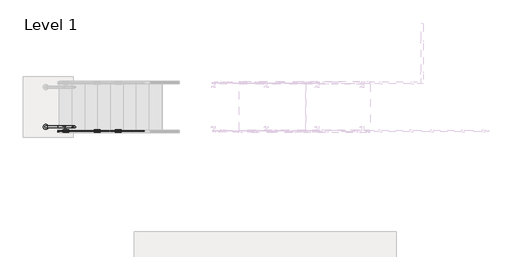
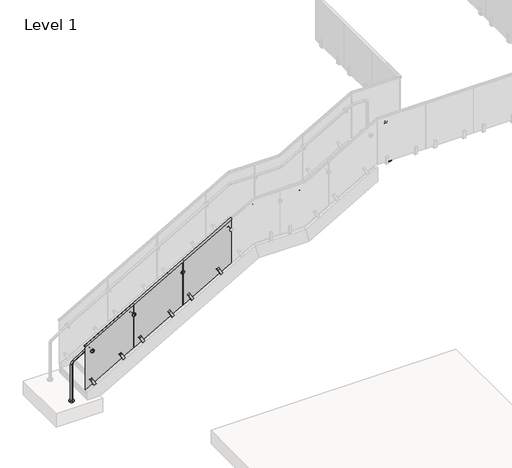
# One storey, part 2 of 17: 1 railing.
"""IFC4 building model written with IfcOpenShell, lengths in millimetres."""

from ifc_helpers import new_model, si_unit, point, frame, frame_2d, origin, origin_with_axes, place, context, project, spatial, polyline, circle_curve, ellipse_curve, trimmed, segment, composite_curve, outline, extrude, element, save
from ifc_brep_helpers import plane_surface, cylinder_surface, revolved_surface, advanced_brep

model = new_model("IFC4")

# Units and contexts
model_context = context("Model", 3, world=origin())
ifc_project = project(units=[si_unit("LENGTHUNIT", "METRE", prefix="MILLI")], contexts=[model_context])

# Site, building, storey
site = spatial("IfcSite", under=ifc_project)
building = spatial("IfcBuilding", under=site)
storey = spatial("IfcBuildingStorey", under=building, Name="Level 1", Elevation=0.0)

# Railing
placement = place(None, origin())
element("IfcRailing", 1, ObjectType="VIVA-VISIO-Glass-Steel Surface Mount-Stair_Lower", at=placement, inside=storey, context=model_context, shape_type="SolidModel", body=[
    extrude(outline(composite_curve([segment(trimmed(circle_curve(frame_2d((30754.4362561, -21962.3617549)), 50.8), [point((30754.4362561, -22013.1617549))], [point((30754.4362561, -21911.5617549))], False, "CARTESIAN"), True, "CONTINUOUS"), segment(trimmed(circle_curve(frame_2d((30754.4362561, -21962.3617549)), 50.8), [point((30754.4362561, -21911.5617549))], [point((30754.4362561, -22013.1617549))], False, "CARTESIAN"), True, "CONTINUOUS")], self_intersect=False)), frame((0.0, 0.0, 3048.0), z_axis=(0.0, 0.0, 1.0), x_axis=(1.0, 0.0, 0.0)), (0.0, 0.0, 1.0), 19.05),
    extrude(outline(composite_curve([segment(trimmed(circle_curve(frame_2d((24036.1362561, -21962.3617549)), 50.8), [point((24036.1362561, -21911.5617549))], [point((24036.1362561, -22013.1617549))], False, "CARTESIAN"), True, "CONTINUOUS"), segment(trimmed(circle_curve(frame_2d((24036.1362561, -21962.3617549)), 50.8), [point((24036.1362561, -22013.1617549))], [point((24036.1362561, -21911.5617549))], False, "CARTESIAN"), True, "CONTINUOUS")], self_intersect=False)), origin_with_axes(), (0.0, 0.0, 1.0), 19.05),
    advanced_brep(
    [(24036.1362561, -21981.4117549, 19.05), (24036.1362561, -21943.3117549, 19.05), (24036.1362561, -21981.4117549, 815.8777111), (24036.1362561, -21943.3117549, 815.8777111), (24072.8957549, -21943.3117549, 884.5634629), (24072.8957549, -21981.4117549, 884.5634629), (24278.7417076, -21981.4117549, 1021.794098), (24278.7417076, -21943.3117549, 1021.794098), (24283.5759394, -21943.3117549, 1024.7818176), (24283.5759394, -21981.4117549, 1024.7818176), (27379.3377028, -21981.4117549, 2793.7885396), (27379.3377028, -21943.3117549, 2793.7885396), (27813.1113335, -21981.4117549, 3041.6591857), (27813.1113335, -21943.3117549, 3041.6591857), (27854.0676029, -21943.3117549, 3052.5357143), (27854.0676029, -21981.4117549, 3052.5357143), (28866.9049093, -21981.4117549, 3052.5357143), (28866.9049093, -21943.3117549, 3052.5357143), (28926.7640722, -21943.3117549, 3068.4321792), (28926.7640722, -21981.4117549, 3068.4321792), (30403.9113335, -21981.4117549, 3912.5163285), (30403.9113335, -21943.3117549, 3912.5163285), (30444.8676029, -21943.3117549, 3923.3928571), (30444.8676029, -21981.4117549, 3923.3928571), (30671.8862561, -21981.4117549, 3923.3928571), (30671.8862561, -21943.3117549, 3923.3928571), (30754.4362561, -21943.3117549, 3840.8428571), (30754.4362561, -21981.4117549, 3840.8428571), (30754.4362561, -21981.4117549, 3067.05), (30754.4362561, -21943.3117549, 3067.05)],
    [
        (0, 1, circle_curve(frame((24036.1362561, -21962.3617549, 19.05), z_axis=(0.0, 0.0, -1.0), x_axis=(0.0, 1.0, 0.0)), 19.05)),
        (1, 0, circle_curve(frame((24036.1362561, -21962.3617549, 19.05), z_axis=(0.0, 0.0, -1.0), x_axis=(0.0, 1.0, 0.0)), 19.05)),
        (0, 2),
        (2, 3, circle_curve(frame((24036.1362561, -21962.3617549, 815.8777111), z_axis=(0.0, 0.0, -1.0), x_axis=(0.0, 1.0, 0.0)), 19.05)),
        (3, 1),
        (3, 2, circle_curve(frame((24036.1362561, -21962.3617549, 815.8777111), z_axis=(0.0, 0.0, -1.0), x_axis=(0.0, 1.0, 0.0)), 19.05)),
        (4, 3, circle_curve(frame((24118.6862561, -21943.3117549, 815.8777111), z_axis=(0.0, -1.0, 0.0), x_axis=(-0.9999999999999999, 0.0, 0.0)), 82.55)),
        (2, 5, circle_curve(frame((24118.6862561, -21981.4117549, 815.8777111), z_axis=(0.0, 1.0, 0.0), x_axis=(-0.9999999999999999, 0.0, 0.0)), 82.55)),
        (5, 4, circle_curve(frame((24072.8957549, -21962.3617549, 884.5634629), z_axis=(-0.8320502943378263, 0.0, -0.5547001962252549), x_axis=(0.0, 0.9999999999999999, 0.0)), 19.05)),
        (4, 5, circle_curve(frame((24072.8957549, -21962.3617549, 884.5634629), z_axis=(-0.8320502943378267, 0.0, -0.5547001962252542), x_axis=(0.0, 0.9999999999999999, 0.0)), 19.05)),
        (5, 6),
        (6, 7, circle_curve(frame((24278.7417076, -21962.3617549, 1021.794098), z_axis=(-0.8320502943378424, 0.0, -0.554700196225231), x_axis=(0.0, 1.0, 0.0)), 19.05)),
        (7, 4),
        (7, 6, circle_curve(frame((24278.7417076, -21962.3617549, 1021.794098), z_axis=(-0.8320502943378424, 0.0, -0.554700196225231), x_axis=(0.0, 1.0, 0.0)), 19.05)),
        (8, 9, circle_curve(frame((24283.5759394, -21962.3617549, 1024.7818176), z_axis=(0.8682431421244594, 0.0, 0.4961389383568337), x_axis=(0.0, 1.0, 0.0)), 19.05)),
        (9, 10),
        (10, 11, circle_curve(frame((27379.3377028, -21962.3617549, 2793.7885396), z_axis=(-0.8682431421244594, 0.0, -0.4961389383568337), x_axis=(0.0, 1.0, 0.0)), 19.05)),
        (11, 8),
        (9, 8, circle_curve(frame((24283.5759394, -21962.3617549, 1024.7818176), z_axis=(0.8682431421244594, 0.0, 0.4961389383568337), x_axis=(0.0, 1.0, 0.0)), 19.05)),
        (11, 10, circle_curve(frame((27379.3377028, -21962.3617549, 2793.7885396), z_axis=(-0.8682431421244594, 0.0, -0.4961389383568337), x_axis=(0.0, 1.0, 0.0)), 19.05)),
        (8, 7, circle_curve(frame((24324.5322088, -21943.3117549, 953.1083462), z_axis=(0.0, -1.0, 0.0), x_axis=(-0.5547001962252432, 0.0, 0.8320502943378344)), 82.55)),
        (6, 9, circle_curve(frame((24324.5322088, -21981.4117549, 953.1083462), z_axis=(0.0, 1.0, 0.0), x_axis=(-0.5547001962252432, 0.0, 0.8320502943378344)), 82.55)),
        (10, 12),
        (12, 13, circle_curve(frame((27813.1113335, -21962.3617549, 3041.6591857), z_axis=(-0.8682431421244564, 0.0, -0.4961389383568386), x_axis=(0.0, 1.0, 0.0)), 19.05)),
        (13, 11),
        (13, 12, circle_curve(frame((27813.1113335, -21962.3617549, 3041.6591857), z_axis=(-0.8682431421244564, 0.0, -0.4961389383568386), x_axis=(0.0, 1.0, 0.0)), 19.05)),
        (14, 13, circle_curve(frame((27854.0676029, -21943.3117549, 2969.9857143), z_axis=(0.0, -1.0, 0.0), x_axis=(-0.49613893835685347, 0.0, 0.8682431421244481)), 82.55)),
        (12, 15, circle_curve(frame((27854.0676029, -21981.4117549, 2969.9857143), z_axis=(0.0, 1.0, 0.0), x_axis=(-0.49613893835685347, 0.0, 0.8682431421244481)), 82.55)),
        (15, 14, circle_curve(frame((27854.0676029, -21962.3617549, 3052.5357143), z_axis=(-1.0, 0.0, 0.0), x_axis=(0.0, 1.0, 0.0)), 19.05)),
        (14, 15, circle_curve(frame((27854.0676029, -21962.3617549, 3052.5357143), z_axis=(-1.0, 0.0, 0.0), x_axis=(0.0, 1.0, 0.0)), 19.05)),
        (15, 16),
        (16, 17, circle_curve(frame((28866.9049093, -21962.3617549, 3052.5357143), z_axis=(-1.0, 0.0, 0.0), x_axis=(0.0, 1.0, 0.0)), 19.05)),
        (17, 14),
        (17, 16, circle_curve(frame((28866.9049093, -21962.3617549, 3052.5357143), z_axis=(-1.0, 0.0, 0.0), x_axis=(0.0, 1.0, 0.0)), 19.05)),
        (18, 17, circle_curve(frame((28866.9049093, -21943.3117549, 3173.1857143), z_axis=(0.0, 1.0, 0.0), x_axis=(0.0, 0.0, -0.9999999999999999)), 120.65)),
        (16, 19, circle_curve(frame((28866.9049093, -21981.4117549, 3173.1857143), z_axis=(0.0, -1.0, 0.0), x_axis=(0.0, 0.0, -0.9999999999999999)), 120.65)),
        (19, 18, circle_curve(frame((28926.7640722, -21962.3617549, 3068.4321792), z_axis=(-0.8682431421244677, 0.0, -0.4961389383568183), x_axis=(0.0, 0.9999999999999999, 0.0)), 19.05)),
        (18, 19, circle_curve(frame((28926.7640722, -21962.3617549, 3068.4321792), z_axis=(-0.8682431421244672, 0.0, -0.49613893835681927), x_axis=(0.0, 0.9999999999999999, 0.0)), 19.05)),
        (19, 20),
        (20, 21, circle_curve(frame((30403.9113335, -21962.3617549, 3912.5163285), z_axis=(-0.8682431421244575, 0.0, -0.49613893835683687), x_axis=(0.0, 1.0, 0.0)), 19.05)),
        (21, 18),
        (21, 20, circle_curve(frame((30403.9113335, -21962.3617549, 3912.5163285), z_axis=(-0.8682431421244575, 0.0, -0.49613893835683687), x_axis=(0.0, 1.0, 0.0)), 19.05)),
        (22, 21, circle_curve(frame((30444.8676029, -21943.3117549, 3840.8428571), z_axis=(0.0, -1.0, 0.0), x_axis=(-0.4961389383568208, 0.0, 0.8682431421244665)), 82.55)),
        (20, 23, circle_curve(frame((30444.8676029, -21981.4117549, 3840.8428571), z_axis=(0.0, 1.0, 0.0), x_axis=(-0.4961389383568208, 0.0, 0.8682431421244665)), 82.55)),
        (23, 22, circle_curve(frame((30444.8676029, -21962.3617549, 3923.3928571), z_axis=(-0.9999999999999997, 0.0, 0.0), x_axis=(0.0, 0.9999999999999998, 0.0)), 19.05)),
        (22, 23, circle_curve(frame((30444.8676029, -21962.3617549, 3923.3928571), z_axis=(-0.9999999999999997, 0.0, 0.0), x_axis=(0.0, 0.9999999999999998, 0.0)), 19.05)),
        (23, 24),
        (24, 25, circle_curve(frame((30671.8862561, -21962.3617549, 3923.3928571), z_axis=(-1.0, 0.0, 0.0), x_axis=(0.0, 1.0, 0.0)), 19.05)),
        (25, 22),
        (25, 24, circle_curve(frame((30671.8862561, -21962.3617549, 3923.3928571), z_axis=(-1.0, 0.0, 0.0), x_axis=(0.0, 1.0, 0.0)), 19.05)),
        (26, 25, circle_curve(frame((30671.8862561, -21943.3117549, 3840.8428571), z_axis=(0.0, -1.0, 0.0), x_axis=(0.0, 0.0, 1.0)), 82.55)),
        (24, 27, circle_curve(frame((30671.8862561, -21981.4117549, 3840.8428571), z_axis=(0.0, 1.0, 0.0), x_axis=(0.0, 0.0, 1.0)), 82.55)),
        (27, 26, circle_curve(frame((30754.4362561, -21962.3617549, 3840.8428571), z_axis=(0.0, 0.0, 1.0), x_axis=(0.0, 1.0, 0.0)), 19.05)),
        (26, 27, circle_curve(frame((30754.4362561, -21962.3617549, 3840.8428571), z_axis=(0.0, 0.0, 1.0), x_axis=(0.0, 1.0, 0.0)), 19.05)),
        (28, 29, circle_curve(frame((30754.4362561, -21962.3617549, 3067.05), z_axis=(0.0, 0.0, -1.0), x_axis=(0.0, 1.0, 0.0)), 19.05)),
        (29, 28, circle_curve(frame((30754.4362561, -21962.3617549, 3067.05), z_axis=(0.0, 0.0, -1.0), x_axis=(0.0, 1.0, 0.0)), 19.05)),
        (27, 28),
        (29, 26),
    ],
    [
        plane_surface(frame((24017.0862561, -22000.4617549, 19.05), z_axis=(0.0, 0.0, -1.0), x_axis=(1.0, 0.0, 0.0))),
        cylinder_surface(frame((24036.1362561, -21962.3617549, 19.05), z_axis=(0.0, 0.0, -1.0), x_axis=(0.0, 1.0, 0.0)), 19.05),
        revolved_surface(trimmed(ellipse_curve(frame((24036.1362561, -21962.3617549, 815.8777111), z_axis=(0.0, 0.0, -0.9999999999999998), x_axis=(0.0, 0.9999999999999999, 0.0)), 19.05, 19.05), [point((24036.1362561, -21981.4117549, 815.8777111))], [point((24036.1362561, -21943.3117549, 815.8777111))], True, "CARTESIAN"), (24118.6862561, -21962.3617549, 815.8777111), (0.0, 0.9999999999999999, 0.0)),
        revolved_surface(trimmed(ellipse_curve(frame((24036.1362561, -21962.3617549, 815.8777111), z_axis=(0.0, 0.0, -0.9999999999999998), x_axis=(0.0, 0.9999999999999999, 0.0)), 19.05, 19.05), [point((24036.1362561, -21943.3117549, 815.8777111))], [point((24036.1362561, -21981.4117549, 815.8777111))], True, "CARTESIAN"), (24118.6862561, -21962.3617549, 815.8777111), (0.0, 0.9999999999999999, 0.0)),
        cylinder_surface(frame((24072.8957549, -21962.3617549, 884.5634629), z_axis=(-0.8320502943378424, 0.0, -0.554700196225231), x_axis=(0.0, 1.0, 0.0)), 19.05),
        cylinder_surface(frame((24283.5759394, -21962.3617549, 1024.7818176), z_axis=(-0.8682431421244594, 0.0, -0.4961389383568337), x_axis=(0.0, 1.0, 0.0)), 19.05),
        revolved_surface(trimmed(ellipse_curve(frame((24278.7417076, -21962.3617549, 1021.794098), z_axis=(-0.8320502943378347, 0.0, -0.5547001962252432), x_axis=(0.0, 1.0000000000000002, 0.0)), 19.05, 19.05), [point((24278.7417076, -21981.4117549, 1021.794098))], [point((24278.7417076, -21943.3117549, 1021.794098))], True, "CARTESIAN"), (24324.5322088, -21962.3617549, 953.1083462), (0.0, 1.0000000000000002, 0.0)),
        revolved_surface(trimmed(ellipse_curve(frame((24278.7417076, -21962.3617549, 1021.794098), z_axis=(-0.8320502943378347, 0.0, -0.5547001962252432), x_axis=(0.0, 1.0000000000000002, 0.0)), 19.05, 19.05), [point((24278.7417076, -21943.3117549, 1021.794098))], [point((24278.7417076, -21981.4117549, 1021.794098))], True, "CARTESIAN"), (24324.5322088, -21962.3617549, 953.1083462), (0.0, 1.0000000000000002, 0.0)),
        cylinder_surface(frame((27379.3377028, -21962.3617549, 2793.7885396), z_axis=(-0.8682431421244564, 0.0, -0.4961389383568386), x_axis=(0.0, 1.0, 0.0)), 19.05),
        revolved_surface(trimmed(ellipse_curve(frame((27813.1113335, -21962.3617549, 3041.6591857), z_axis=(-0.8682431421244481, 0.0, -0.49613893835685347), x_axis=(0.0, 1.0, 0.0)), 19.05, 19.05), [point((27813.1113335, -21981.4117549, 3041.6591857))], [point((27813.1113335, -21943.3117549, 3041.6591857))], True, "CARTESIAN"), (27854.0676029, -21962.3617549, 2969.9857143), (0.0, 1.0, 0.0)),
        revolved_surface(trimmed(ellipse_curve(frame((27813.1113335, -21962.3617549, 3041.6591857), z_axis=(-0.8682431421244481, 0.0, -0.49613893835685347), x_axis=(0.0, 1.0, 0.0)), 19.05, 19.05), [point((27813.1113335, -21943.3117549, 3041.6591857))], [point((27813.1113335, -21981.4117549, 3041.6591857))], True, "CARTESIAN"), (27854.0676029, -21962.3617549, 2969.9857143), (0.0, 1.0, 0.0)),
        cylinder_surface(frame((27854.0676029, -21962.3617549, 3052.5357143), z_axis=(-1.0, 0.0, 0.0), x_axis=(0.0, 1.0, 0.0)), 19.05),
        revolved_surface(trimmed(ellipse_curve(frame((28866.9049093, -21962.3617549, 3052.5357143), z_axis=(-0.9999999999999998, 0.0, 0.0), x_axis=(0.0, 0.9999999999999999, 0.0)), 19.05, 19.05), [point((28866.9049093, -21981.4117549, 3052.5357143))], [point((28866.9049093, -21943.3117549, 3052.5357143))], True, "CARTESIAN"), (28866.9049093, -21962.3617549, 3173.1857143), (0.0, -0.9999999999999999, 0.0)),
        revolved_surface(trimmed(ellipse_curve(frame((28866.9049093, -21962.3617549, 3052.5357143), z_axis=(-0.9999999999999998, 0.0, 0.0), x_axis=(0.0, 0.9999999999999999, 0.0)), 19.05, 19.05), [point((28866.9049093, -21943.3117549, 3052.5357143))], [point((28866.9049093, -21981.4117549, 3052.5357143))], True, "CARTESIAN"), (28866.9049093, -21962.3617549, 3173.1857143), (0.0, -0.9999999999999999, 0.0)),
        cylinder_surface(frame((28926.7640722, -21962.3617549, 3068.4321792), z_axis=(-0.8682431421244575, 0.0, -0.49613893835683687), x_axis=(0.0, 1.0, 0.0)), 19.05),
        revolved_surface(trimmed(ellipse_curve(frame((30403.9113335, -21962.3617549, 3912.5163285), z_axis=(-0.8682431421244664, 0.0, -0.49613893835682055), x_axis=(0.0, 0.9999999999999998, 0.0)), 19.05, 19.05), [point((30403.9113335, -21981.4117549, 3912.5163285))], [point((30403.9113335, -21943.3117549, 3912.5163285))], True, "CARTESIAN"), (30444.8676029, -21962.3617549, 3840.8428571), (0.0, 0.9999999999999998, 0.0)),
        revolved_surface(trimmed(ellipse_curve(frame((30403.9113335, -21962.3617549, 3912.5163285), z_axis=(-0.8682431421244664, 0.0, -0.49613893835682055), x_axis=(0.0, 0.9999999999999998, 0.0)), 19.05, 19.05), [point((30403.9113335, -21943.3117549, 3912.5163285))], [point((30403.9113335, -21981.4117549, 3912.5163285))], True, "CARTESIAN"), (30444.8676029, -21962.3617549, 3840.8428571), (0.0, 0.9999999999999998, 0.0)),
        cylinder_surface(frame((30444.8676029, -21962.3617549, 3923.3928571), z_axis=(-1.0, 0.0, 0.0), x_axis=(0.0, 1.0, 0.0)), 19.05),
        revolved_surface(trimmed(ellipse_curve(frame((30671.8862561, -21962.3617549, 3923.3928571), z_axis=(-1.0, 0.0, 0.0), x_axis=(0.0, 1.0, 0.0)), 19.05, 19.05), [point((30671.8862561, -21981.4117549, 3923.3928571))], [point((30671.8862561, -21943.3117549, 3923.3928571))], True, "CARTESIAN"), (30671.8862561, -21962.3617549, 3840.8428571), (0.0, 1.0, 0.0)),
        revolved_surface(trimmed(ellipse_curve(frame((30671.8862561, -21962.3617549, 3923.3928571), z_axis=(-1.0, 0.0, 0.0), x_axis=(0.0, 1.0, 0.0)), 19.05, 19.05), [point((30671.8862561, -21943.3117549, 3923.3928571))], [point((30671.8862561, -21981.4117549, 3923.3928571))], True, "CARTESIAN"), (30671.8862561, -21962.3617549, 3840.8428571), (0.0, 1.0, 0.0)),
        plane_surface(frame((30773.4862561, -22000.4617549, 3067.05), z_axis=(0.0, 0.0, -1.0), x_axis=(-1.0, 0.0, 0.0))),
        cylinder_surface(frame((30754.4362561, -21962.3617549, 3840.8428571), z_axis=(0.0, 0.0, 1.0), x_axis=(0.0, 1.0, 0.0)), 19.05),
    ],
    [
        (0, [[1, 2]]),
        (1, [[-1, 3, 4, 5]]),
        (1, [[-2, -5, 6, -3]]),
        (2, [[7, -4, 8, 9]]),
        (3, [[-8, -6, -7, 10]]),
        (4, [[-9, 11, 12, 13]]),
        (4, [[-10, -13, 14, -11]]),
        (5, [[15, 16, 17, 18]]),
        (5, [[19, -18, 20, -16]]),
        (6, [[21, -12, 22, -15]]),
        (7, [[-22, -14, -21, -19]]),
        (8, [[-17, 23, 24, 25]]),
        (8, [[-20, -25, 26, -23]]),
        (9, [[27, -24, 28, 29]]),
        (10, [[-28, -26, -27, 30]]),
        (11, [[-29, 31, 32, 33]]),
        (11, [[-30, -33, 34, -31]]),
        (12, [[35, -32, 36, 37]]),
        (13, [[-36, -34, -35, 38]]),
        (14, [[-37, 39, 40, 41]]),
        (14, [[-38, -41, 42, -39]]),
        (15, [[43, -40, 44, 45]]),
        (16, [[-44, -42, -43, 46]]),
        (17, [[-45, 47, 48, 49]]),
        (17, [[-46, -49, 50, -47]]),
        (18, [[51, -48, 52, 53]]),
        (19, [[-52, -50, -51, 54]]),
        (20, [[55, 56]]),
        (21, [[-53, 57, -56, 58]]),
        (21, [[-54, -58, -55, -57]]),
    ],
),
    advanced_brep(
    [(24271.0862561, -22056.3417549, 1183.9128615), (24271.0862561, -22033.4070565, 1183.9777177), (24271.0862561, -22038.5617549, 1186.9279838), (24271.0862561, -22038.5617549, 1215.1002082), (24271.0862561, -22051.2617549, 1215.1002082), (24271.0862561, -22051.2617549, 1186.8383094), (27369.8862561, -22056.3417549, 2954.6557187), (27369.8862561, -22051.2617549, 2957.5811665), (27369.8862561, -22051.2617549, 2985.8430653), (27369.8862561, -22038.5617549, 2985.8430653), (27369.8862561, -22038.5617549, 2957.670841), (27369.8862561, -22033.4070565, 2954.7205748)],
    [
        (0, 1, ellipse_curve(frame((24271.0862561, -22044.9117549, 1201.4655484), z_axis=(-1.0, 0.0, 0.0), x_axis=(0.0, 0.0, -0.9999999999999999)), 21.9408586, 19.05)),
        (1, 2, ellipse_curve(frame((24271.0862561, -22035.3479446, 1186.9279838), z_axis=(-1.0, 0.0, 0.0), x_axis=(0.0, 0.0, -0.9999999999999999)), 3.7015096, 3.2138103)),
        (2, 3),
        (3, 4),
        (4, 5),
        (5, 0, ellipse_curve(frame((24271.0862561, -22054.4367549, 1186.8383094), z_axis=(-1.0, 0.0, 0.0), x_axis=(0.0, 0.0, -0.9999999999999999)), 3.6568098, 3.175)),
        (6, 7, ellipse_curve(frame((27369.8862561, -22054.4367549, 2957.5811665), z_axis=(1.0, 0.0, 0.0), x_axis=(0.0, 0.0, -0.9999999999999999)), 3.6568098, 3.175)),
        (7, 8),
        (8, 9),
        (9, 10),
        (10, 11, ellipse_curve(frame((27369.8862561, -22035.3479446, 2957.670841), z_axis=(1.0, 0.0, 0.0), x_axis=(0.0, 0.0, -0.9999999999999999)), 3.7015096, 3.2138103)),
        (11, 6, ellipse_curve(frame((27369.8862561, -22044.9117549, 2972.2084056), z_axis=(1.0, 0.0, 0.0), x_axis=(0.0, 0.0, -0.9999999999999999)), 21.9408586, 19.05)),
        (0, 6),
        (11, 1),
        (10, 2),
        (9, 3),
        (8, 4),
        (7, 5),
    ],
    [
        plane_surface(frame((24271.0862561, -22044.9117549, 1217.3857143), z_axis=(-1.0, 0.0, 0.0), x_axis=(0.0, 1.0, 0.0))),
        plane_surface(frame((27369.8862561, -22044.9117549, 2988.1285714), z_axis=(1.0, 0.0, 0.0), x_axis=(0.0, 1.0, 0.0))),
        cylinder_surface(frame((24277.9441737, -22044.9117549, 1205.3843585), z_axis=(-0.8682431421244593, 0.0, -0.4961389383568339), x_axis=(0.0, 1.0, 0.0)), 19.05),
        cylinder_surface(frame((24284.2065092, -22035.3479446, 1194.4252713), z_axis=(-0.8682431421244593, 0.0, -0.4961389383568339), x_axis=(0.0, 1.0, 0.0)), 3.2138103),
        plane_surface(frame((24271.0862561, -22038.5617549, 1186.9279838), z_axis=(0.0, -1.0000000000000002, 0.0), x_axis=(0.8682431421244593, 0.0, 0.49613893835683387))),
        plane_surface(frame((24271.0862561, -22038.5617549, 1215.1002082), z_axis=(0.49613893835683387, 0.0, -0.8682431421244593), x_axis=(0.8682431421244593, 0.0, 0.49613893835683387))),
        plane_surface(frame((24271.0862561, -22051.2617549, 1215.1002082), z_axis=(0.0, 1.0000000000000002, 0.0), x_axis=(0.8682431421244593, 0.0, 0.49613893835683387))),
        cylinder_surface(frame((24284.2451382, -22054.4367549, 1194.3576706), z_axis=(-0.8682431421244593, 0.0, -0.4961389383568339), x_axis=(0.0, 1.0, 0.0)), 3.175),
    ],
    [
        (0, [[1, 2, 3, 4, 5, 6]]),
        (1, [[7, 8, 9, 10, 11, 12]]),
        (2, [[-1, 13, -12, 14]]),
        (3, [[-2, -14, -11, 15]]),
        (4, [[-3, -15, -10, 16]]),
        (5, [[-4, -16, -9, 17]]),
        (6, [[-5, -17, -8, 18]]),
        (7, [[-6, -18, -7, -13]]),
    ],
),
    extrude(outline(polyline([(0.0, 12.7), (50.8, 12.7), (50.8, 0.0), (0.0, 0.0), (0.0, 12.7)])), frame((27141.2462136, -22051.2617549, 1799.7415149), z_axis=(-0.49613893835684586, 0.0, 0.8682431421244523), x_axis=(0.8682431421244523, 0.0, 0.49613893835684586)), (0.0, 0.0, 1.0), 50.8),
    extrude(outline(polyline([(0.0, 0.0), (0.0, 19.05), (166.6875, 19.05), (166.6875, 11.1125), (139.7, 0.0), (0.0, 0.0)])), frame((27134.1576285, -22019.5117549, 1812.1465388), z_axis=(0.8682431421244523, 0.0, 0.49613893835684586), x_axis=(-0.49613893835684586, 0.0, 0.8682431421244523)), (0.0, 0.0, 1.0), 50.8),
    extrude(outline(polyline([(0.0, 50.8), (139.7, 50.8), (166.6875, 39.6875), (166.6875, 31.75), (0.0, 31.75), (0.0, 50.8)])), frame((27134.1576285, -22019.5117549, 1812.1465388), z_axis=(0.8682431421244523, 0.0, 0.49613893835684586), x_axis=(-0.49613893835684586, 0.0, 0.8682431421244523)), (0.0, 0.0, 1.0), 50.8),
    extrude(outline(polyline([(2981.5065494, 27361.802636), (2400.9351209, 26345.802636), (1408.483444, 26345.802636), (1989.0548725, 27361.802636), (2981.5065494, 27361.802636)])), frame((0.0, -22051.2617549, 0.0), z_axis=(0.0, 1.0, 0.0), x_axis=(0.0, 0.0, 1.0)), (0.0, 0.0, 1.0), 12.7),
    extrude(outline(polyline([(0.0, 12.7), (50.8, 12.7), (50.8, 0.0), (0.0, 0.0), (0.0, 12.7)])), frame((26521.4862136, -22051.2617549, 1445.5929435), z_axis=(-0.49613893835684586, 0.0, 0.8682431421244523), x_axis=(0.8682431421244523, 0.0, 0.49613893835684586)), (0.0, 0.0, 1.0), 50.8),
    extrude(outline(polyline([(0.0, 0.0), (0.0, 19.05), (166.6875, 19.05), (166.6875, 11.1125), (139.7, 0.0), (0.0, 0.0)])), frame((26514.3976285, -22019.5117549, 1457.9979674), z_axis=(0.8682431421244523, 0.0, 0.49613893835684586), x_axis=(-0.49613893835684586, 0.0, 0.8682431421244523)), (0.0, 0.0, 1.0), 50.8),
    extrude(outline(polyline([(0.0, 50.8), (139.7, 50.8), (166.6875, 39.6875), (166.6875, 31.75), (0.0, 31.75), (0.0, 50.8)])), frame((26514.3976285, -22019.5117549, 1457.9979674), z_axis=(0.8682431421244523, 0.0, 0.49613893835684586), x_axis=(-0.49613893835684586, 0.0, 0.8682431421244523)), (0.0, 0.0, 1.0), 50.8),
    extrude(outline(composite_curve([segment(trimmed(circle_curve(frame_2d((0.0, -7.0)), 7.0), [point((0.0, -14.0))], [point((0.0, 0.0))], False, "CARTESIAN"), True, "CONTINUOUS"), segment(trimmed(circle_curve(frame_2d((0.0, -7.0)), 7.0), [point((0.0, 0.0))], [point((0.0, -14.0))], False, "CARTESIAN"), True, "CONTINUOUS")], self_intersect=False)), frame((26349.7491159, -21969.6918939, 2118.4424369), z_axis=(-0.5018548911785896, 0.0, 0.8649518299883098), x_axis=(-0.8649518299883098, 0.0, -0.5018548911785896)), (0.0, 0.0, 1.0), 52.8378352),
    extrude(outline(composite_curve([segment(trimmed(circle_curve(frame_2d((18.6575252, 0.3952033)), 19.05), [point((5.2466064, 13.9247915))], [point((5.2466064, -13.134385))], True, "CARTESIAN"), True, "CONTINUOUS"), segment(polyline([(5.2466064, -13.134385), (4.2292194, -14.1607746)]), True, "CONTINUOUS"), segment(trimmed(circle_curve(frame_2d((3.1638975, -13.1047967)), 1.5), [point((4.2292194, -14.1607746))], [point((2.0329757, -14.0901982))], False, "CARTESIAN"), True, "CONTINUOUS"), segment(trimmed(circle_curve(frame_2d((18.6575252, 0.3952033)), 22.05), [point((2.0329757, -14.0901982))], [point((2.0329757, 14.8806047))], False, "CARTESIAN"), True, "CONTINUOUS"), segment(trimmed(circle_curve(frame_2d((3.1638975, 13.8952033)), 1.5), [point((2.0329757, 14.8806047))], [point((4.2292194, 14.9511811))], False, "CARTESIAN"), True, "CONTINUOUS"), segment(polyline([(4.2292194, 14.9511811), (5.2466064, 13.9247915)]), True, "CONTINUOUS")], self_intersect=False)), frame((26285.2813338, -21960.9646616, 2146.1836197), z_axis=(0.8664916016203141, 0.0, 0.49919165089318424), x_axis=(-0.49919165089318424, 0.0, 0.8664916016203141)), (0.0, 0.0, 1.0), 74.5229187),
    extrude(outline(composite_curve([segment(trimmed(circle_curve(frame_2d((2140.5789524, 26336.9529227)), 11.0132813), [point((2140.5789524, 26347.966204))], [point((2140.5789524, 26325.9396415))], False, "CARTESIAN"), True, "CONTINUOUS"), segment(trimmed(circle_curve(frame_2d((2140.5789524, 26336.9529227)), 11.0132813), [point((2140.5789524, 26325.9396415))], [point((2140.5789524, 26347.966204))], False, "CARTESIAN"), True, "CONTINUOUS")], self_intersect=False)), frame((0.0, -22028.9375361, 0.0), z_axis=(0.0, 1.0, 0.0), x_axis=(0.0, 0.0, 1.0)), (0.0, 0.0, 1.0), 79.2757812),
    advanced_brep(
    [(26336.9529227, -22060.8859736, 2140.5789524), (26336.9529227, -22060.8859736, 2176.6945774), (26336.9529227, -22060.8859736, 2104.4633274), (26336.9529227, -22028.9375361, 2104.4633274), (26336.9529227, -22028.9375361, 2176.6945774), (26336.9529227, -22028.9375361, 2140.5789524), (26336.9529227, -22030.9219111, 2102.4789524), (26336.9529227, -22030.9219111, 2178.6789524), (26336.9529227, -22038.5617549, 2102.4789524), (26336.9529227, -22038.5617549, 2178.6789524), (26336.9529227, -22038.5617549, 2127.8789524), (26336.9529227, -22038.5617549, 2153.2789524), (26336.9529227, -22051.2617549, 2127.8789524), (26336.9529227, -22051.2617549, 2153.2789524), (26336.9529227, -22051.2617549, 2102.4789524), (26336.9529227, -22051.2617549, 2178.6789524), (26336.9529227, -22058.9015986, 2102.4789524), (26336.9529227, -22058.9015986, 2178.6789524)],
    [
        (0, 1),
        (1, 2, circle_curve(frame((26336.9529227, -22060.8859736, 2140.5789524), z_axis=(0.0, -1.0, 0.0), x_axis=(0.0, 0.0, 1.0)), 36.115625)),
        (2, 0),
        (2, 1, circle_curve(frame((26336.9529227, -22060.8859736, 2140.5789524), z_axis=(0.0, -1.0, 0.0), x_axis=(0.0, 0.0, 1.0)), 36.115625)),
        (3, 4, circle_curve(frame((26336.9529227, -22028.9375361, 2140.5789524), z_axis=(0.0, 1.0, 0.0), x_axis=(0.0, 0.0, 1.0)), 36.115625)),
        (4, 5),
        (5, 3),
        (4, 3, circle_curve(frame((26336.9529227, -22028.9375361, 2140.5789524), z_axis=(0.0, 1.0, 0.0), x_axis=(0.0, 0.0, 1.0)), 36.115625)),
        (6, 7, circle_curve(frame((26336.9529227, -22030.9219111, 2140.5789524), z_axis=(0.0, 1.0, 0.0), x_axis=(0.0, 0.0, 1.0)), 38.1)),
        (7, 4),
        (3, 6),
        (7, 6, circle_curve(frame((26336.9529227, -22030.9219111, 2140.5789524), z_axis=(0.0, 1.0, 0.0), x_axis=(0.0, 0.0, 1.0)), 38.1)),
        (8, 9, circle_curve(frame((26336.9529227, -22038.5617549, 2140.5789524), z_axis=(0.0, 1.0, 0.0), x_axis=(0.0, 0.0, 1.0)), 38.1)),
        (9, 7),
        (6, 8),
        (9, 8, circle_curve(frame((26336.9529227, -22038.5617549, 2140.5789524), z_axis=(0.0, 1.0, 0.0), x_axis=(0.0, 0.0, 1.0)), 38.1)),
        (10, 11, circle_curve(frame((26336.9529227, -22038.5617549, 2140.5789524), z_axis=(0.0, 1.0, 0.0), x_axis=(0.0, 0.0, 1.0)), 12.7)),
        (11, 9),
        (8, 10),
        (11, 10, circle_curve(frame((26336.9529227, -22038.5617549, 2140.5789524), z_axis=(0.0, 1.0, 0.0), x_axis=(0.0, 0.0, 1.0)), 12.7)),
        (12, 13, circle_curve(frame((26336.9529227, -22051.2617549, 2140.5789524), z_axis=(0.0, 1.0, 0.0), x_axis=(0.0, 0.0, 1.0)), 12.7)),
        (13, 11),
        (10, 12),
        (13, 12, circle_curve(frame((26336.9529227, -22051.2617549, 2140.5789524), z_axis=(0.0, 1.0, 0.0), x_axis=(0.0, 0.0, 1.0)), 12.7)),
        (14, 15, circle_curve(frame((26336.9529227, -22051.2617549, 2140.5789524), z_axis=(0.0, 1.0, 0.0), x_axis=(0.0, 0.0, 1.0)), 38.1)),
        (15, 13),
        (12, 14),
        (15, 14, circle_curve(frame((26336.9529227, -22051.2617549, 2140.5789524), z_axis=(0.0, 1.0, 0.0), x_axis=(0.0, 0.0, 1.0)), 38.1)),
        (16, 17, circle_curve(frame((26336.9529227, -22058.9015986, 2140.5789524), z_axis=(0.0, 1.0, 0.0), x_axis=(0.0, 0.0, 1.0)), 38.1)),
        (17, 15),
        (14, 16),
        (17, 16, circle_curve(frame((26336.9529227, -22058.9015986, 2140.5789524), z_axis=(0.0, 1.0, 0.0), x_axis=(0.0, 0.0, 1.0)), 38.1)),
        (1, 17),
        (16, 2),
    ],
    [
        plane_surface(frame((26336.9529227, -22060.8859736, 2140.5789524), z_axis=(0.0, -1.0, 0.0), x_axis=(0.0, 0.0, 1.0))),
        plane_surface(frame((26336.9529227, -22028.9375361, 2140.5789524), z_axis=(0.0, 1.0, 0.0), x_axis=(0.0, 0.0, 1.0))),
        revolved_surface(polyline([(26336.9529227, -22028.9375361, 2176.6945774), (26336.9529227, -22030.9219111, 2178.6789524)]), (26336.9529227, -22097.0015986, 2140.5789524), (0.0, -1.0, 0.0)),
        cylinder_surface(frame((26336.9529227, -22097.0015986, 2140.5789524), z_axis=(0.0, -1.0, 0.0), x_axis=(0.0, 0.0, 1.0)), 38.1),
        plane_surface(frame((26336.9529227, -22038.5617549, 2140.5789524), z_axis=(0.0, -1.0, 0.0), x_axis=(0.0, 0.0, 1.0))),
        cylinder_surface(frame((26336.9529227, -22097.0015986, 2140.5789524), z_axis=(0.0, -1.0, 0.0), x_axis=(0.0, 0.0, 1.0)), 12.7),
        plane_surface(frame((26336.9529227, -22051.2617549, 2140.5789524), z_axis=(0.0, 1.0, 0.0), x_axis=(0.0, 0.0, 1.0))),
        revolved_surface(polyline([(26336.9529227, -22058.9015986, 2178.6789524), (26336.9529227, -22060.8859736, 2176.6945774)]), (26336.9529227, -22097.0015986, 2140.5789524), (0.0, -1.0, 0.0)),
    ],
    [
        (0, [[1, 2, 3]]),
        (0, [[-3, 4, -1]]),
        (1, [[5, 6, 7]]),
        (1, [[8, -7, -6]]),
        (2, [[9, 10, -5, 11]]),
        (2, [[12, -11, -8, -10]]),
        (3, [[13, 14, -9, 15]]),
        (3, [[16, -15, -12, -14]]),
        (4, [[17, 18, -13, 19]]),
        (4, [[20, -19, -16, -18]]),
        (5, [[21, 22, -17, 23]]),
        (5, [[24, -23, -20, -22]]),
        (6, [[25, 26, -21, 27]]),
        (6, [[28, -27, -24, -26]]),
        (3, [[29, 30, -25, 31]]),
        (3, [[32, -31, -28, -30]]),
        (7, [[-2, 33, -29, 34]]),
        (7, [[-4, -34, -32, -33]]),
    ],
),
    extrude(outline(polyline([(0.0, 12.7), (50.8, 12.7), (50.8, 0.0), (0.0, 0.0), (0.0, 12.7)])), frame((26108.3128803, -22051.2617549, 1209.4938959), z_axis=(-0.49613893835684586, 0.0, 0.8682431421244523), x_axis=(0.8682431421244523, 0.0, 0.49613893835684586)), (0.0, 0.0, 1.0), 50.8),
    extrude(outline(polyline([(0.0, 0.0), (0.0, 19.05), (166.6875, 19.05), (166.6875, 11.1125), (139.7, 0.0), (0.0, 0.0)])), frame((26101.2242952, -22019.5117549, 1221.8989198), z_axis=(0.8682431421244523, 0.0, 0.49613893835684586), x_axis=(-0.49613893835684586, 0.0, 0.8682431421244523)), (0.0, 0.0, 1.0), 50.8),
    extrude(outline(polyline([(0.0, 50.8), (139.7, 50.8), (166.6875, 39.6875), (166.6875, 31.75), (0.0, 31.75), (0.0, 50.8)])), frame((26101.2242952, -22019.5117549, 1221.8989198), z_axis=(0.8682431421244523, 0.0, 0.49613893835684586), x_axis=(-0.49613893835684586, 0.0, 0.8682431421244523)), (0.0, 0.0, 1.0), 50.8),
    extrude(outline(polyline([(2391.2589304, 26328.8693027), (1810.6875018, 25312.8693027), (818.2358249, 25312.8693027), (1398.8072535, 26328.8693027), (2391.2589304, 26328.8693027)])), frame((0.0, -22051.2617549, 0.0), z_axis=(0.0, 1.0, 0.0), x_axis=(0.0, 0.0, 1.0)), (0.0, 0.0, 1.0), 12.7),
    extrude(outline(polyline([(0.0, 12.7), (50.7999999, 12.7), (50.7999999, 0.0), (0.0, 0.0), (0.0, 12.7)])), frame((25488.5528803, -22051.2617549, 855.3453245), z_axis=(-0.49613893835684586, 0.0, 0.8682431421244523), x_axis=(0.8682431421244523, 0.0, 0.49613893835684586)), (0.0, 0.0, 1.0), 50.8),
    extrude(outline(polyline([(0.0, 0.0), (0.0, 19.05), (166.6875, 19.05), (166.6875, 11.1125), (139.7, 0.0), (0.0, 0.0)])), frame((25481.4642952, -22019.5117549, 867.7503484), z_axis=(0.8682431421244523, 0.0, 0.49613893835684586), x_axis=(-0.49613893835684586, 0.0, 0.8682431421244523)), (0.0, 0.0, 1.0), 50.8),
    extrude(outline(polyline([(0.0, 50.8), (139.7, 50.8), (166.6875, 39.6875), (166.6875, 31.75), (0.0, 31.75), (0.0, 50.8)])), frame((25481.4642952, -22019.5117549, 867.7503484), z_axis=(0.8682431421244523, 0.0, 0.49613893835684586), x_axis=(-0.49613893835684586, 0.0, 0.8682431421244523)), (0.0, 0.0, 1.0), 50.8),
    extrude(outline(composite_curve([segment(trimmed(circle_curve(frame_2d((0.0, -7.0)), 7.0), [point((0.0, -14.0))], [point((0.0, 0.0))], False, "CARTESIAN"), True, "CONTINUOUS"), segment(trimmed(circle_curve(frame_2d((0.0, -7.0)), 7.0), [point((0.0, 0.0))], [point((0.0, -14.0))], False, "CARTESIAN"), True, "CONTINUOUS")], self_intersect=False)), frame((25316.8157825, -21969.6918939, 1528.1948178), z_axis=(-0.5018548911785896, 0.0, 0.8649518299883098), x_axis=(-0.8649518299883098, 0.0, -0.5018548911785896)), (0.0, 0.0, 1.0), 52.8378352),
    extrude(outline(composite_curve([segment(trimmed(circle_curve(frame_2d((18.6575251, 0.3952033)), 19.05), [point((5.2466063, 13.9247915))], [point((5.2466063, -13.134385))], True, "CARTESIAN"), True, "CONTINUOUS"), segment(polyline([(5.2466063, -13.134385), (4.2292193, -14.1607746)]), True, "CONTINUOUS"), segment(trimmed(circle_curve(frame_2d((3.1638974, -13.1047967)), 1.5), [point((4.2292193, -14.1607746))], [point((2.0329756, -14.0901982))], False, "CARTESIAN"), True, "CONTINUOUS"), segment(trimmed(circle_curve(frame_2d((18.6575251, 0.3952033)), 22.05), [point((2.0329756, -14.0901982))], [point((2.0329756, 14.8806047))], False, "CARTESIAN"), True, "CONTINUOUS"), segment(trimmed(circle_curve(frame_2d((3.1638974, 13.8952033)), 1.5), [point((2.0329756, 14.8806047))], [point((4.2292193, 14.9511811))], False, "CARTESIAN"), True, "CONTINUOUS"), segment(polyline([(4.2292193, 14.9511811), (5.2466063, 13.9247915)]), True, "CONTINUOUS")], self_intersect=False)), frame((25252.3480005, -21960.9646616, 1555.9360007), z_axis=(0.8664916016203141, 0.0, 0.49919165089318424), x_axis=(-0.49919165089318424, 0.0, 0.8664916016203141)), (0.0, 0.0, 1.0), 74.5229187),
    extrude(outline(composite_curve([segment(trimmed(circle_curve(frame_2d((1550.3313333, 25304.0195894)), 11.0132813), [point((1550.3313333, 25315.0328707))], [point((1550.3313333, 25293.0063082))], False, "CARTESIAN"), True, "CONTINUOUS"), segment(trimmed(circle_curve(frame_2d((1550.3313333, 25304.0195894)), 11.0132813), [point((1550.3313333, 25293.0063082))], [point((1550.3313333, 25315.0328707))], False, "CARTESIAN"), True, "CONTINUOUS")], self_intersect=False)), frame((0.0, -22028.9375361, 0.0), z_axis=(0.0, 1.0, 0.0), x_axis=(0.0, 0.0, 1.0)), (0.0, 0.0, 1.0), 79.2757812),
    advanced_brep(
    [(25304.0195894, -22060.8859736, 1550.3313333), (25304.0195894, -22060.8859736, 1586.4469583), (25304.0195894, -22060.8859736, 1514.2157083), (25304.0195894, -22028.9375361, 1514.2157083), (25304.0195894, -22028.9375361, 1586.4469583), (25304.0195894, -22028.9375361, 1550.3313333), (25304.0195894, -22030.9219111, 1512.2313333), (25304.0195894, -22030.9219111, 1588.4313333), (25304.0195894, -22038.5617549, 1512.2313333), (25304.0195894, -22038.5617549, 1588.4313333), (25304.0195894, -22038.5617549, 1537.6313333), (25304.0195894, -22038.5617549, 1563.0313333), (25304.0195894, -22051.2617549, 1537.6313333), (25304.0195894, -22051.2617549, 1563.0313333), (25304.0195894, -22051.2617549, 1512.2313333), (25304.0195894, -22051.2617549, 1588.4313333), (25304.0195894, -22058.9015986, 1512.2313333), (25304.0195894, -22058.9015986, 1588.4313333)],
    [
        (0, 1),
        (1, 2, circle_curve(frame((25304.0195894, -22060.8859736, 1550.3313333), z_axis=(0.0, -1.0, 0.0), x_axis=(0.0, 0.0, 1.0)), 36.115625)),
        (2, 0),
        (2, 1, circle_curve(frame((25304.0195894, -22060.8859736, 1550.3313333), z_axis=(0.0, -1.0, 0.0), x_axis=(0.0, 0.0, 1.0)), 36.115625)),
        (3, 4, circle_curve(frame((25304.0195894, -22028.9375361, 1550.3313333), z_axis=(0.0, 1.0, 0.0), x_axis=(0.0, 0.0, 1.0)), 36.115625)),
        (4, 5),
        (5, 3),
        (4, 3, circle_curve(frame((25304.0195894, -22028.9375361, 1550.3313333), z_axis=(0.0, 1.0, 0.0), x_axis=(0.0, 0.0, 1.0)), 36.115625)),
        (6, 7, circle_curve(frame((25304.0195894, -22030.9219111, 1550.3313333), z_axis=(0.0, 1.0, 0.0), x_axis=(0.0, 0.0, 1.0)), 38.1)),
        (7, 4),
        (3, 6),
        (7, 6, circle_curve(frame((25304.0195894, -22030.9219111, 1550.3313333), z_axis=(0.0, 1.0, 0.0), x_axis=(0.0, 0.0, 1.0)), 38.1)),
        (8, 9, circle_curve(frame((25304.0195894, -22038.5617549, 1550.3313333), z_axis=(0.0, 1.0, 0.0), x_axis=(0.0, 0.0, 1.0)), 38.1)),
        (9, 7),
        (6, 8),
        (9, 8, circle_curve(frame((25304.0195894, -22038.5617549, 1550.3313333), z_axis=(0.0, 1.0, 0.0), x_axis=(0.0, 0.0, 1.0)), 38.1)),
        (10, 11, circle_curve(frame((25304.0195894, -22038.5617549, 1550.3313333), z_axis=(0.0, 1.0, 0.0), x_axis=(0.0, 0.0, 1.0)), 12.7)),
        (11, 9),
        (8, 10),
        (11, 10, circle_curve(frame((25304.0195894, -22038.5617549, 1550.3313333), z_axis=(0.0, 1.0, 0.0), x_axis=(0.0, 0.0, 1.0)), 12.7)),
        (12, 13, circle_curve(frame((25304.0195894, -22051.2617549, 1550.3313333), z_axis=(0.0, 1.0, 0.0), x_axis=(0.0, 0.0, 1.0)), 12.7)),
        (13, 11),
        (10, 12),
        (13, 12, circle_curve(frame((25304.0195894, -22051.2617549, 1550.3313333), z_axis=(0.0, 1.0, 0.0), x_axis=(0.0, 0.0, 1.0)), 12.7)),
        (14, 15, circle_curve(frame((25304.0195894, -22051.2617549, 1550.3313333), z_axis=(0.0, 1.0, 0.0), x_axis=(0.0, 0.0, 1.0)), 38.1)),
        (15, 13),
        (12, 14),
        (15, 14, circle_curve(frame((25304.0195894, -22051.2617549, 1550.3313333), z_axis=(0.0, 1.0, 0.0), x_axis=(0.0, 0.0, 1.0)), 38.1)),
        (16, 17, circle_curve(frame((25304.0195894, -22058.9015986, 1550.3313333), z_axis=(0.0, 1.0, 0.0), x_axis=(0.0, 0.0, 1.0)), 38.1)),
        (17, 15),
        (14, 16),
        (17, 16, circle_curve(frame((25304.0195894, -22058.9015986, 1550.3313333), z_axis=(0.0, 1.0, 0.0), x_axis=(0.0, 0.0, 1.0)), 38.1)),
        (1, 17),
        (16, 2),
    ],
    [
        plane_surface(frame((25304.0195894, -22060.8859736, 1550.3313333), z_axis=(0.0, -1.0, 0.0), x_axis=(0.0, 0.0, 1.0))),
        plane_surface(frame((25304.0195894, -22028.9375361, 1550.3313333), z_axis=(0.0, 1.0, 0.0), x_axis=(0.0, 0.0, 1.0))),
        revolved_surface(polyline([(25304.0195894, -22028.9375361, 1586.4469583), (25304.0195894, -22030.9219111, 1588.4313333)]), (25304.0195894, -22097.0015986, 1550.3313333), (0.0, -1.0, 0.0)),
        cylinder_surface(frame((25304.0195894, -22097.0015986, 1550.3313333), z_axis=(0.0, -1.0, 0.0), x_axis=(0.0, 0.0, 1.0)), 38.1),
        plane_surface(frame((25304.0195894, -22038.5617549, 1550.3313333), z_axis=(0.0, -1.0, 0.0), x_axis=(0.0, 0.0, 1.0))),
        cylinder_surface(frame((25304.0195894, -22097.0015986, 1550.3313333), z_axis=(0.0, -1.0, 0.0), x_axis=(0.0, 0.0, 1.0)), 12.7),
        plane_surface(frame((25304.0195894, -22051.2617549, 1550.3313333), z_axis=(0.0, 1.0, 0.0), x_axis=(0.0, 0.0, 1.0))),
        revolved_surface(polyline([(25304.0195894, -22058.9015986, 1588.4313333), (25304.0195894, -22060.8859736, 1586.4469583)]), (25304.0195894, -22097.0015986, 1550.3313333), (0.0, -1.0, 0.0)),
    ],
    [
        (0, [[1, 2, 3]]),
        (0, [[-3, 4, -1]]),
        (1, [[5, 6, 7]]),
        (1, [[8, -7, -6]]),
        (2, [[9, 10, -5, 11]]),
        (2, [[12, -11, -8, -10]]),
        (3, [[13, 14, -9, 15]]),
        (3, [[16, -15, -12, -14]]),
        (4, [[17, 18, -13, 19]]),
        (4, [[20, -19, -16, -18]]),
        (5, [[21, 22, -17, 23]]),
        (5, [[24, -23, -20, -22]]),
        (6, [[25, 26, -21, 27]]),
        (6, [[28, -27, -24, -26]]),
        (3, [[29, 30, -25, 31]]),
        (3, [[32, -31, -28, -30]]),
        (7, [[-2, 33, -29, 34]]),
        (7, [[-4, -34, -32, -33]]),
    ],
),
    extrude(outline(polyline([(0.0, 12.7), (50.8, 12.7), (50.8, 0.0), (0.0, 0.0), (0.0, 12.7)])), frame((25075.3795469, -22051.2617549, 619.2462768), z_axis=(-0.49613893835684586, 0.0, 0.8682431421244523), x_axis=(0.8682431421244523, 0.0, 0.49613893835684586)), (0.0, 0.0, 1.0), 50.8),
    extrude(outline(polyline([(0.0, 0.0), (0.0, 19.05), (166.6875, 19.05), (166.6875, 11.1125), (139.7, 0.0), (0.0, 0.0)])), frame((25068.2909618, -22019.5117549, 631.6513007), z_axis=(0.8682431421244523, 0.0, 0.49613893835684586), x_axis=(-0.49613893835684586, 0.0, 0.8682431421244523)), (0.0, 0.0, 1.0), 50.8),
    extrude(outline(polyline([(0.0, 50.8), (139.7, 50.8), (166.6875, 39.6875), (166.6875, 31.75), (0.0, 31.75), (0.0, 50.8)])), frame((25068.2909618, -22019.5117549, 631.6513007), z_axis=(0.8682431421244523, 0.0, 0.49613893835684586), x_axis=(-0.49613893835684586, 0.0, 0.8682431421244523)), (0.0, 0.0, 1.0), 50.8),
    extrude(outline(polyline([(1801.0113113, 25295.9359693), (1220.4398828, 24279.9359693), (227.9882059, 24279.9359693), (808.5596344, 25295.9359693), (1801.0113113, 25295.9359693)])), frame((0.0, -22051.2617549, 0.0), z_axis=(0.0, 1.0, 0.0), x_axis=(0.0, 0.0, 1.0)), (0.0, 0.0, 1.0), 12.7),
    extrude(outline(polyline([(0.0, 12.7), (50.8, 12.7), (50.8, 0.0), (0.0, 0.0), (0.0, 12.7)])), frame((24455.6195469, -22051.2617549, 265.0977054), z_axis=(-0.49613893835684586, 0.0, 0.8682431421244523), x_axis=(0.8682431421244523, 0.0, 0.49613893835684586)), (0.0, 0.0, 1.0), 50.8),
    extrude(outline(polyline([(0.0, 0.0), (0.0, 19.05), (166.6875, 19.05), (166.6875, 11.1125), (139.7, 0.0), (0.0, 0.0)])), frame((24448.5309618, -22019.5117549, 277.5027293), z_axis=(0.8682431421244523, 0.0, 0.49613893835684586), x_axis=(-0.49613893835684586, 0.0, 0.8682431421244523)), (0.0, 0.0, 1.0), 50.8),
    extrude(outline(polyline([(0.0, 50.8), (139.7, 50.8), (166.6875, 39.6875), (166.6875, 31.75), (0.0, 31.75), (0.0, 50.8)])), frame((24448.5309618, -22019.5117549, 277.5027293), z_axis=(0.8682431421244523, 0.0, 0.49613893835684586), x_axis=(-0.49613893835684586, 0.0, 0.8682431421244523)), (0.0, 0.0, 1.0), 50.8),
    extrude(outline(composite_curve([segment(trimmed(circle_curve(frame_2d((0.0, -7.0)), 7.0), [point((0.0, -14.0))], [point((0.0, 0.0))], False, "CARTESIAN"), True, "CONTINUOUS"), segment(trimmed(circle_curve(frame_2d((0.0, -7.0)), 7.0), [point((0.0, 0.0))], [point((0.0, -14.0))], False, "CARTESIAN"), True, "CONTINUOUS")], self_intersect=False)), frame((24436.2824492, -21969.6918939, 1025.0329131), z_axis=(-0.5018548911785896, 0.0, 0.8649518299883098), x_axis=(-0.8649518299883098, 0.0, -0.5018548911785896)), (0.0, 0.0, 1.0), 52.8378352),
    extrude(outline(composite_curve([segment(trimmed(circle_curve(frame_2d((18.6575252, 0.3952033)), 19.05), [point((5.2466064, 13.9247915))], [point((5.2466064, -13.134385))], True, "CARTESIAN"), True, "CONTINUOUS"), segment(polyline([(5.2466064, -13.134385), (4.2292193, -14.1607746)]), True, "CONTINUOUS"), segment(trimmed(circle_curve(frame_2d((3.1638975, -13.1047967)), 1.5), [point((4.2292193, -14.1607746))], [point((2.0329757, -14.0901982))], False, "CARTESIAN"), True, "CONTINUOUS"), segment(trimmed(circle_curve(frame_2d((18.6575252, 0.3952033)), 22.05), [point((2.0329757, -14.0901982))], [point((2.0329757, 14.8806047))], False, "CARTESIAN"), True, "CONTINUOUS"), segment(trimmed(circle_curve(frame_2d((3.1638975, 13.8952033)), 1.5), [point((2.0329757, 14.8806047))], [point((4.2292193, 14.9511811))], False, "CARTESIAN"), True, "CONTINUOUS"), segment(polyline([(4.2292193, 14.9511811), (5.2466064, 13.9247915)]), True, "CONTINUOUS")], self_intersect=False)), frame((24371.8146672, -21960.9646616, 1052.7740959), z_axis=(0.8664916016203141, 0.0, 0.49919165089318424), x_axis=(-0.49919165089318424, 0.0, 0.8664916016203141)), (0.0, 0.0, 1.0), 74.5229187),
    extrude(outline(composite_curve([segment(trimmed(circle_curve(frame_2d((1047.1694286, 24423.4862561)), 11.0132813), [point((1047.1694286, 24434.4995373))], [point((1047.1694286, 24412.4729748))], False, "CARTESIAN"), True, "CONTINUOUS"), segment(trimmed(circle_curve(frame_2d((1047.1694286, 24423.4862561)), 11.0132813), [point((1047.1694286, 24412.4729748))], [point((1047.1694286, 24434.4995373))], False, "CARTESIAN"), True, "CONTINUOUS")], self_intersect=False)), frame((0.0, -22028.9375361, 0.0), z_axis=(0.0, 1.0, 0.0), x_axis=(0.0, 0.0, 1.0)), (0.0, 0.0, 1.0), 79.2757812),
    advanced_brep(
    [(24423.4862561, -22060.8859736, 1047.1694286), (24423.4862561, -22060.8859736, 1083.2850536), (24423.4862561, -22060.8859736, 1011.0538036), (24423.4862561, -22028.9375361, 1011.0538036), (24423.4862561, -22028.9375361, 1083.2850536), (24423.4862561, -22028.9375361, 1047.1694286), (24423.4862561, -22030.9219111, 1009.0694286), (24423.4862561, -22030.9219111, 1085.2694286), (24423.4862561, -22038.5617549, 1009.0694286), (24423.4862561, -22038.5617549, 1085.2694286), (24423.4862561, -22038.5617549, 1034.4694286), (24423.4862561, -22038.5617549, 1059.8694286), (24423.4862561, -22051.2617549, 1034.4694286), (24423.4862561, -22051.2617549, 1059.8694286), (24423.4862561, -22051.2617549, 1009.0694286), (24423.4862561, -22051.2617549, 1085.2694286), (24423.4862561, -22058.9015986, 1009.0694286), (24423.4862561, -22058.9015986, 1085.2694286)],
    [
        (0, 1),
        (1, 2, circle_curve(frame((24423.4862561, -22060.8859736, 1047.1694286), z_axis=(0.0, -1.0, 0.0), x_axis=(0.0, 0.0, 1.0)), 36.115625)),
        (2, 0),
        (2, 1, circle_curve(frame((24423.4862561, -22060.8859736, 1047.1694286), z_axis=(0.0, -1.0, 0.0), x_axis=(0.0, 0.0, 1.0)), 36.115625)),
        (3, 4, circle_curve(frame((24423.4862561, -22028.9375361, 1047.1694286), z_axis=(0.0, 1.0, 0.0), x_axis=(0.0, 0.0, 1.0)), 36.115625)),
        (4, 5),
        (5, 3),
        (4, 3, circle_curve(frame((24423.4862561, -22028.9375361, 1047.1694286), z_axis=(0.0, 1.0, 0.0), x_axis=(0.0, 0.0, 1.0)), 36.115625)),
        (6, 7, circle_curve(frame((24423.4862561, -22030.9219111, 1047.1694286), z_axis=(0.0, 1.0, 0.0), x_axis=(0.0, 0.0, 1.0)), 38.1)),
        (7, 4),
        (3, 6),
        (7, 6, circle_curve(frame((24423.4862561, -22030.9219111, 1047.1694286), z_axis=(0.0, 1.0, 0.0), x_axis=(0.0, 0.0, 1.0)), 38.1)),
        (8, 9, circle_curve(frame((24423.4862561, -22038.5617549, 1047.1694286), z_axis=(0.0, 1.0, 0.0), x_axis=(0.0, 0.0, 1.0)), 38.1)),
        (9, 7),
        (6, 8),
        (9, 8, circle_curve(frame((24423.4862561, -22038.5617549, 1047.1694286), z_axis=(0.0, 1.0, 0.0), x_axis=(0.0, 0.0, 1.0)), 38.1)),
        (10, 11, circle_curve(frame((24423.4862561, -22038.5617549, 1047.1694286), z_axis=(0.0, 1.0, 0.0), x_axis=(0.0, 0.0, 1.0)), 12.7)),
        (11, 9),
        (8, 10),
        (11, 10, circle_curve(frame((24423.4862561, -22038.5617549, 1047.1694286), z_axis=(0.0, 1.0, 0.0), x_axis=(0.0, 0.0, 1.0)), 12.7)),
        (12, 13, circle_curve(frame((24423.4862561, -22051.2617549, 1047.1694286), z_axis=(0.0, 1.0, 0.0), x_axis=(0.0, 0.0, 1.0)), 12.7)),
        (13, 11),
        (10, 12),
        (13, 12, circle_curve(frame((24423.4862561, -22051.2617549, 1047.1694286), z_axis=(0.0, 1.0, 0.0), x_axis=(0.0, 0.0, 1.0)), 12.7)),
        (14, 15, circle_curve(frame((24423.4862561, -22051.2617549, 1047.1694286), z_axis=(0.0, 1.0, 0.0), x_axis=(0.0, 0.0, 1.0)), 38.1)),
        (15, 13),
        (12, 14),
        (15, 14, circle_curve(frame((24423.4862561, -22051.2617549, 1047.1694286), z_axis=(0.0, 1.0, 0.0), x_axis=(0.0, 0.0, 1.0)), 38.1)),
        (16, 17, circle_curve(frame((24423.4862561, -22058.9015986, 1047.1694286), z_axis=(0.0, 1.0, 0.0), x_axis=(0.0, 0.0, 1.0)), 38.1)),
        (17, 15),
        (14, 16),
        (17, 16, circle_curve(frame((24423.4862561, -22058.9015986, 1047.1694286), z_axis=(0.0, 1.0, 0.0), x_axis=(0.0, 0.0, 1.0)), 38.1)),
        (1, 17),
        (16, 2),
    ],
    [
        plane_surface(frame((24423.4862561, -22060.8859736, 1047.1694286), z_axis=(0.0, -1.0, 0.0), x_axis=(0.0, 0.0, 1.0))),
        plane_surface(frame((24423.4862561, -22028.9375361, 1047.1694286), z_axis=(0.0, 1.0, 0.0), x_axis=(0.0, 0.0, 1.0))),
        revolved_surface(polyline([(24423.4862561, -22028.9375361, 1083.2850536), (24423.4862561, -22030.9219111, 1085.2694286)]), (24423.4862561, -22097.0015986, 1047.1694286), (0.0, -1.0, 0.0)),
        cylinder_surface(frame((24423.4862561, -22097.0015986, 1047.1694286), z_axis=(0.0, -1.0, 0.0), x_axis=(0.0, 0.0, 1.0)), 38.1),
        plane_surface(frame((24423.4862561, -22038.5617549, 1047.1694286), z_axis=(0.0, -1.0, 0.0), x_axis=(0.0, 0.0, 1.0))),
        cylinder_surface(frame((24423.4862561, -22097.0015986, 1047.1694286), z_axis=(0.0, -1.0, 0.0), x_axis=(0.0, 0.0, 1.0)), 12.7),
        plane_surface(frame((24423.4862561, -22051.2617549, 1047.1694286), z_axis=(0.0, 1.0, 0.0), x_axis=(0.0, 0.0, 1.0))),
        revolved_surface(polyline([(24423.4862561, -22058.9015986, 1085.2694286), (24423.4862561, -22060.8859736, 1083.2850536)]), (24423.4862561, -22097.0015986, 1047.1694286), (0.0, -1.0, 0.0)),
    ],
    [
        (0, [[1, 2, 3]]),
        (0, [[-3, 4, -1]]),
        (1, [[5, 6, 7]]),
        (1, [[8, -7, -6]]),
        (2, [[9, 10, -5, 11]]),
        (2, [[12, -11, -8, -10]]),
        (3, [[13, 14, -9, 15]]),
        (3, [[16, -15, -12, -14]]),
        (4, [[17, 18, -13, 19]]),
        (4, [[20, -19, -16, -18]]),
        (5, [[21, 22, -17, 23]]),
        (5, [[24, -23, -20, -22]]),
        (6, [[25, 26, -21, 27]]),
        (6, [[28, -27, -24, -26]]),
        (3, [[29, 30, -25, 31]]),
        (3, [[32, -31, -28, -30]]),
        (7, [[-2, 33, -29, 34]]),
        (7, [[-4, -34, -32, -33]]),
    ],
),
])

save(model, "model.ifc")
